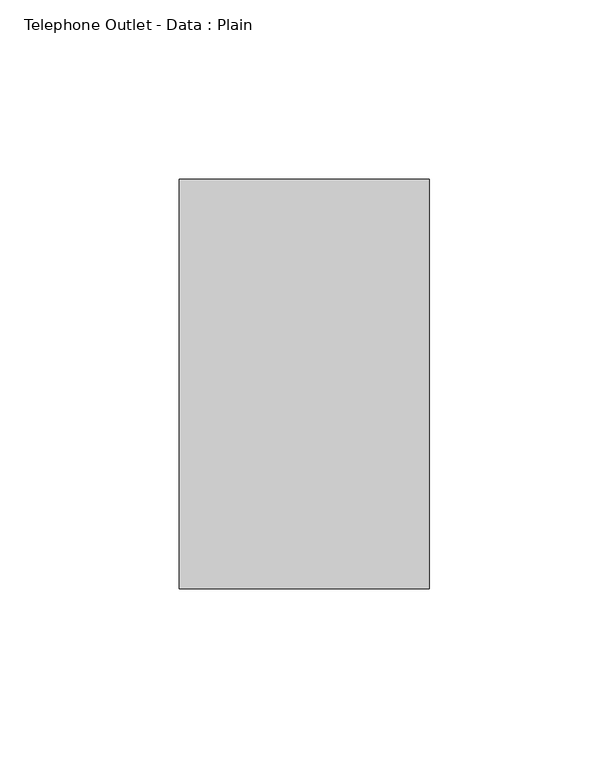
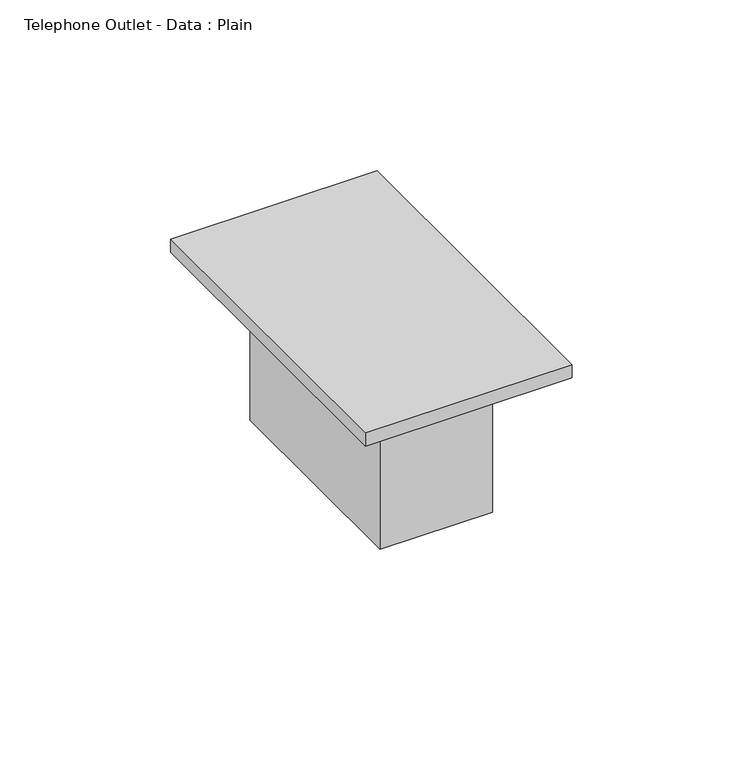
"""IFC4 building model written with IfcOpenShell, lengths in millimetres: electric appliance geometry, Telephone Outlet - Data : Plain."""

from ifc_helpers import new_model, si_unit, frame, origin, origin_with_axes, place, context, project, spatial, polyline, outline, extrude, source, transform, mapped, element, save


def telephone_outlet_data_plain_18c24199(model_context):
    return source(origin(), model_context, "Body", "SweptSolid", [
        extrude(outline(polyline([(-860.425, 895.35), (-860.425, 819.15), (-898.525, 819.15), (-898.525, 895.35), (-860.425, 895.35)])), frame((0.0, 0.0, -53.975), z_axis=(0.0, 0.0, 1.0), x_axis=(1.0, 0.0, 0.0)), (0.0, 0.0, 1.0), 53.975),
        extrude(outline(polyline([(-844.55, 914.4), (-844.55, 800.1), (-914.4, 800.1), (-914.4, 914.4), (-844.55, 914.4)])), origin_with_axes(), (0.0, 0.0, 1.0), 4.7625),
    ])


if __name__ == "__main__":
    model = new_model("IFC4")
    model_context = context("Model", 3, world=origin())
    ifc_project = project(units=[si_unit("LENGTHUNIT", "METRE", prefix="MILLI")], contexts=[model_context])
    site = spatial("IfcSite", under=ifc_project)
    building = spatial("IfcBuilding", under=site)
    placement = place(None, origin())
    telephone_outlet_data_plain_shape = telephone_outlet_data_plain_18c24199(model_context)
    element("IfcElectricAppliance", 1, ObjectType="Telephone Outlet - Data : Plain", at=placement, inside=building, context=model_context, shape_type="MappedRepresentation", body=[
        mapped(telephone_outlet_data_plain_shape, transform((0.0, 0.0, 0.0), x_axis=(1.0, 0.0, 0.0), y_axis=(0.0, 1.0, 0.0), z_axis=(0.0, 0.0, 1.0))),
    ])
    save(model, "model.ifc")
